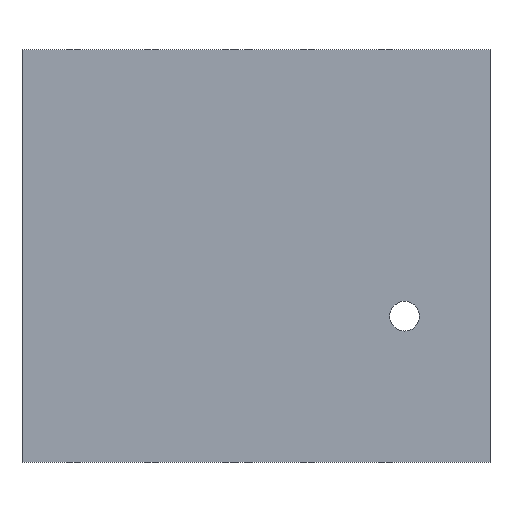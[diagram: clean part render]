
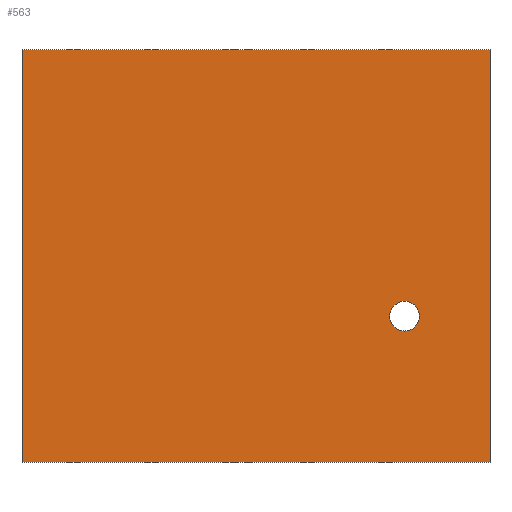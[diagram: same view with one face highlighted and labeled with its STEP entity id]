
A CAD part, front view. The second image highlights one B-rep face of the part: STEP entity #563.
In plain terms, the highlighted planar face has unit normal (0, -1, 0).
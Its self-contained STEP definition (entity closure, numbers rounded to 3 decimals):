
#18=LINE('',#984,#30);
#21=LINE('',#990,#33);
#22=LINE('',#993,#34);
#23=LINE('',#994,#35);
#30=VECTOR('',#831,111.);
#33=VECTOR('',#836,126.);
#34=VECTOR('',#839,111.);
#35=VECTOR('',#840,126.);
#41=PLANE('',#654);
#74=FACE_BOUND('',#229,.T.);
#152=FACE_OUTER_BOUND('',#228,.T.);
#228=EDGE_LOOP('',(#470,#471,#472,#473));
#229=EDGE_LOOP('',(#474));
#250=CIRCLE('',#578,4.);
#292=VERTEX_POINT('',#864);
#330=VERTEX_POINT('',#977);
#333=VERTEX_POINT('',#982);
#335=VERTEX_POINT('',#988);
#336=VERTEX_POINT('',#992);
#342=EDGE_CURVE('',#292,#292,#250,.T.);
#383=EDGE_CURVE('',#330,#333,#18,.T.);
#386=EDGE_CURVE('',#333,#335,#21,.T.);
#387=EDGE_CURVE('',#335,#336,#22,.T.);
#388=EDGE_CURVE('',#336,#330,#23,.T.);
#470=ORIENTED_EDGE('',*,*,#387,.T.);
#471=ORIENTED_EDGE('',*,*,#388,.T.);
#472=ORIENTED_EDGE('',*,*,#383,.T.);
#473=ORIENTED_EDGE('',*,*,#386,.T.);
#474=ORIENTED_EDGE('',*,*,#342,.T.);
#563=ADVANCED_FACE('',(#152,#74),#41,.T.);
#578=AXIS2_PLACEMENT_3D('',#865,#678,#679);
#654=AXIS2_PLACEMENT_3D('',#991,#837,#838);
#678=DIRECTION('center_axis',(0.,1.,0.));
#679=DIRECTION('ref_axis',(-1.,0.,0.));
#831=DIRECTION('',(0.,0.,-1.));
#836=DIRECTION('',(1.,0.,0.));
#837=DIRECTION('center_axis',(0.,-1.,0.));
#838=DIRECTION('ref_axis',(0.,0.,-1.));
#839=DIRECTION('',(0.,0.,1.));
#840=DIRECTION('',(-1.,0.,0.));
#864=CARTESIAN_POINT('',(44.,-6.,-16.2));
#865=CARTESIAN_POINT('Origin',(40.,-6.,-16.2));
#977=CARTESIAN_POINT('',(-63.,-6.,55.5));
#982=CARTESIAN_POINT('',(-63.,-6.,-55.5));
#984=CARTESIAN_POINT('',(-63.,-6.,-55.5));
#988=CARTESIAN_POINT('',(63.,-6.,-55.5));
#990=CARTESIAN_POINT('',(63.,-6.,-55.5));
#991=CARTESIAN_POINT('Origin',(17.27,-6.,17.27));
#992=CARTESIAN_POINT('',(63.,-6.,55.5));
#993=CARTESIAN_POINT('',(63.,-6.,55.5));
#994=CARTESIAN_POINT('',(-63.,-6.,55.5));
